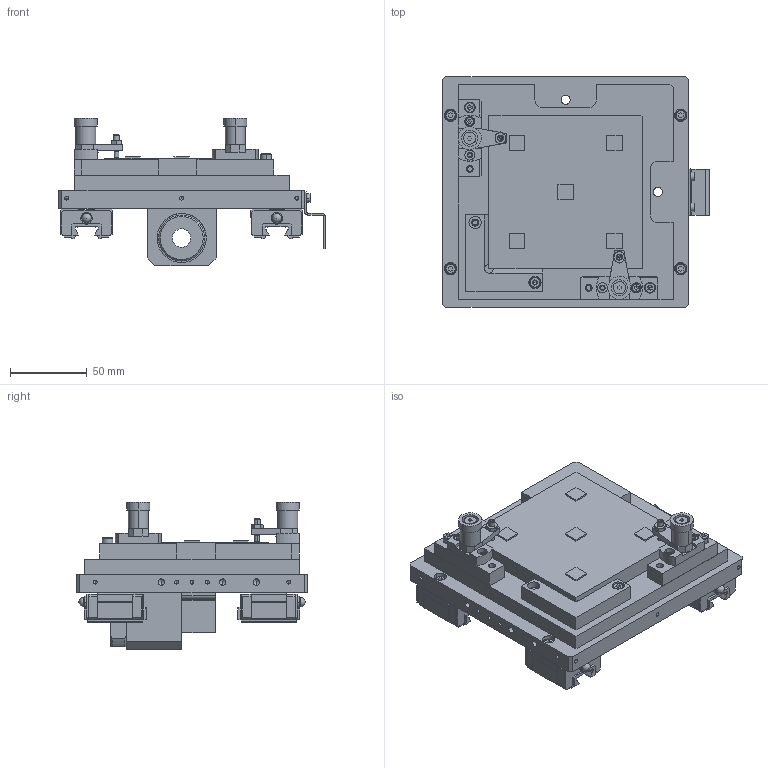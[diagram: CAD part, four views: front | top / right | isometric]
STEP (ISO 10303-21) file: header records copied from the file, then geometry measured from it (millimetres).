
FILE_DESCRIPTION (( 'STEP AP214' ), '1' );
FILE_NAME ('Y_2.STEP', '2021-01-22T03:15:08', ( '' ), ( '' ), 'SwSTEP 2.0', 'SolidWorks 2017', '' );
FILE_SCHEMA (( 'AUTOMOTIVE_DESIGN' ));
Length unit declared in the file: millimetre
Products named in the file (26): 0781_Z_TMXYA05-P6-S-R-M6-D5-SX100-SY100-TX60_3_1; 0781_301_CBE3-12_1; 0781_003_SPCPS20-S_1; 0781_303_CBE4-12_1; Y1; 0781_304_CBE4-18_1; 0781_Z_USS4-10_2_1; 0781_Z_SPCPS20-S_2_1; 0781_305_CBE5-15_1; 0781_004_USS4-10_1; 0781_201_Plate_1; 0781_Z_TMXYA05-P6-S-R-M6-D5-SX100-SY100-TX60_3_2; 0781_Work-A_1; 0781_001_TMXYA05-P6-S-R-M6-D5-SX100-SY100-TX60_1; Y_2; 0781_Z_TMXYA05-P6-S-R-M6-D5-SX100-SY100-TX60_3; 0781_005_WGLHM-50-10-15_1; 0781_Z_USS4-10_1_1; _0781_SA02_1; 0781_202_Block_1; 0781_Z_TMXYA05-P6-S-R-M6-D5-SX100-SY100-TX60_3_3; _0781_Assy_1; _0781_SA01_1; 0781_Z_SPCPS20-S_1_1; 0781_Z_SPCPS20-S_3_1; 0781_Z_TMXYA05-P6-S-R-M6-D5-SX100-SY100-TX60_3_4
Assembly tree (33 placements, depth 7):
  Y_2
    Y1
      _0781_Assy_1
        _0781_SA01_1
          0781_001_TMXYA05-P6-S-R-M6-D5-SX100-SY100-TX60_1
            0781_Z_TMXYA05-P6-S-R-M6-D5-SX100-SY100-TX60_3
              0781_Z_TMXYA05-P6-S-R-M6-D5-SX100-SY100-TX60_3_1
              0781_Z_TMXYA05-P6-S-R-M6-D5-SX100-SY100-TX60_3_2  x4
              0781_Z_TMXYA05-P6-S-R-M6-D5-SX100-SY100-TX60_3_3
              0781_Z_TMXYA05-P6-S-R-M6-D5-SX100-SY100-TX60_3_4
        _0781_SA02_1
          0781_003_SPCPS20-S_1  x2
            0781_Z_SPCPS20-S_1_1
            0781_Z_SPCPS20-S_2_1
            0781_Z_SPCPS20-S_3_1
          0781_004_USS4-10_1  x2
            0781_Z_USS4-10_1_1
            0781_Z_USS4-10_2_1
          0781_005_WGLHM-50-10-15_1
          0781_201_Plate_1
          0781_202_Block_1  x2
          0781_301_CBE3-12_1  x2
          0781_303_CBE4-12_1
          0781_304_CBE4-18_1  x2
          0781_305_CBE5-15_1
        0781_Work-A_1
Bounding box: 173.5 x 150 x 96 mm (x, y, z)
Volume: 746760.2 mm3; surface area: 212010.7 mm2
Topology: 45 solids, 49 shells, 1673 faces, 4205 edges, 2684 vertices
Faces by surface type: plane 904, cylinder 509, cone 256, sphere 4
Entity records: 46570 total; most frequent: CARTESIAN_POINT 7002, DIRECTION 5735, ORIENTED_EDGE 5220, EDGE_CURVE 2610, AXIS2_PLACEMENT_3D 2093, VERTEX_POINT 1696, LINE 1549, VECTOR 1549
